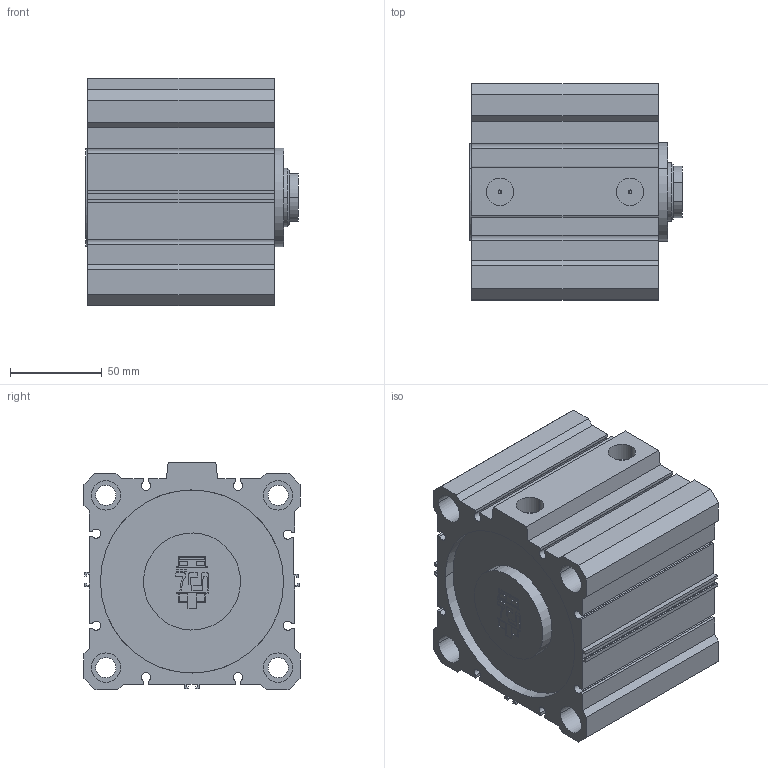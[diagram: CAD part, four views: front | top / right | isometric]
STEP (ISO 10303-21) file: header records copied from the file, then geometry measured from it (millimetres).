
FILE_DESCRIPTION(('CATIA V5 STEP Exchange'),'2;1');
FILE_NAME('D:\PDA\PDA-STP\PDA 100-32\PDA 100-32-45.stp','2016-02-03T05:46:09+00:00',('none'),('none'),'Version 5-6 Release 2012','CATIA V5 STEP AP203','none');
FILE_SCHEMA(('CONFIG_CONTROL_DESIGN'));
Length unit declared in the file: millimetre
Products named in the file (1): PDA 100-32-45-00
Assembly tree (2 placements, depth 2):
  PDA 100-32-45-00
    #58
    #7695
Bounding box: 116 x 118 x 124 mm (x, y, z)
Volume: 833028.4 mm3; surface area: 179209.1 mm2
Topology: 2 solids, 2 shells, 284 faces, 744 edges, 498 vertices
Faces by surface type: plane 202, cylinder 80, cone 2
Entity records: 8167 total; most frequent: ORIENTED_EDGE 1488, CARTESIAN_POINT 1432, DIRECTION 1124, EDGE_CURVE 744, VECTOR 574, LINE 574, VERTEX_POINT 498, AXIS2_PLACEMENT_3D 360
